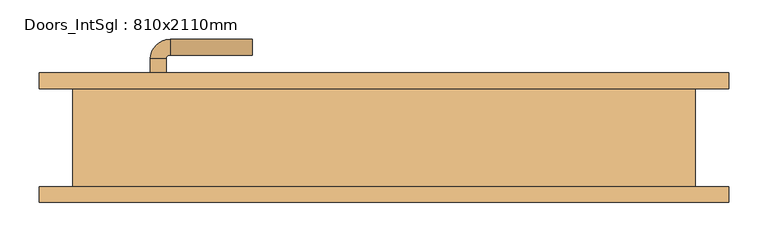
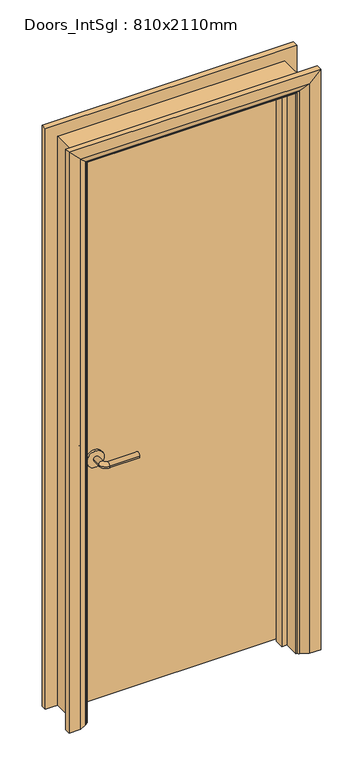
"""IFC4 building model written with IfcOpenShell, lengths in millimetres: door geometry, Doors_IntSgl : 810x2110mm."""

from ifc_helpers import new_model, si_unit, point, frame, frame_2d, origin, place, context, project, spatial, polyline, circle_curve, ellipse_curve, trimmed, segment, composite_curve, outline, extrude, faceted_brep, source, transform, mapped, element, save
from ifc_brep_helpers import plane_surface, cylinder_surface, revolved_surface, advanced_brep


def doors_intsgl_810x2110mm_60c2a13c(model_context):
    return source(origin(), model_context, "Body", "SolidModel", [
        advanced_brep(
        [(-298.0, 16.5, 900.0), (-278.0, 16.5, 900.0), (-278.0, -13.5, 900.0), (-298.0, -13.5, 900.0), (-273.0, -18.5, 900.0), (-273.0, -38.5, 900.0), (-168.0, -38.5, 900.0), (-168.0, -18.5, 900.0)],
        [
            (0, 1, circle_curve(frame((-288.0, 16.5, 900.0), z_axis=(0.0, 1.0, 0.0), x_axis=(1.0, 0.0, 0.0)), 10.0)),
            (1, 0, circle_curve(frame((-288.0, 16.5, 900.0), z_axis=(0.0, 1.0, 0.0), x_axis=(1.0, 0.0, 0.0)), 10.0)),
            (1, 2),
            (2, 3, circle_curve(frame((-288.0, -13.5, 900.0), z_axis=(0.0, 1.0, 0.0), x_axis=(1.0, 0.0, 0.0)), 10.0)),
            (3, 0),
            (3, 2, circle_curve(frame((-288.0, -13.5, 900.0), z_axis=(0.0, 1.0, 0.0), x_axis=(1.0, 0.0, 0.0)), 10.0)),
            (4, 5, circle_curve(frame((-273.0, -28.5, 900.0), z_axis=(-1.0, 0.0, 0.0), x_axis=(0.0, 1.0, 0.0)), 10.0)),
            (5, 3, circle_curve(frame((-273.0, -13.5, 900.0), z_axis=(0.0, 0.0, -1.0), x_axis=(-1.0, 0.0, 0.0)), 25.0)),
            (2, 4, circle_curve(frame((-273.0, -13.5, 900.0), z_axis=(0.0, 0.0, 1.0), x_axis=(-1.0, 0.0, 0.0)), 5.0)),
            (5, 4, circle_curve(frame((-273.0, -28.5, 900.0), z_axis=(-1.0, 0.0, 0.0), x_axis=(0.0, 1.0, 0.0)), 10.0)),
            (6, 7, circle_curve(frame((-168.0, -28.5, 900.0), z_axis=(1.0, 0.0, 0.0), x_axis=(0.0, 1.0, 0.0)), 10.0)),
            (7, 6, circle_curve(frame((-168.0, -28.5, 900.0), z_axis=(1.0, 0.0, 0.0), x_axis=(0.0, 1.0, 0.0)), 10.0)),
            (4, 7),
            (6, 5),
        ],
        [
            plane_surface(frame((-288.0, 16.5, 900.0), z_axis=(0.0, 1.0, 0.0), x_axis=(0.0, 0.0, 1.0))),
            cylinder_surface(frame((-288.0, 16.5, 900.0), z_axis=(0.0, 1.0, 0.0), x_axis=(1.0, 0.0, 0.0)), 10.0),
            revolved_surface(trimmed(ellipse_curve(frame((-288.0, -13.5, 900.0), z_axis=(0.0, -1.0, 0.0), x_axis=(1.0, 0.0, 0.0)), 10.0, 10.0), [point((-298.0, -13.5, 900.0))], [point((-278.0, -13.5, 900.0))], True, "CARTESIAN"), (-273.0, -13.5, 900.0), (0.0, 0.0, -1.0)),
            revolved_surface(trimmed(ellipse_curve(frame((-288.0, -13.5, 900.0), z_axis=(0.0, -1.0, 0.0), x_axis=(1.0, 0.0, 0.0)), 10.0, 10.0), [point((-278.0, -13.5, 900.0))], [point((-298.0, -13.5, 900.0))], True, "CARTESIAN"), (-273.0, -13.5, 900.0), (0.0, 0.0, -1.0)),
            plane_surface(frame((-168.0, -28.5, 900.0), z_axis=(1.0, 0.0, 0.0), x_axis=(0.0, 0.0, 1.0))),
            cylinder_surface(frame((-273.0, -28.5, 900.0), z_axis=(-1.0, 0.0, 0.0), x_axis=(0.0, 1.0, 0.0)), 10.0),
        ],
        [
            (0, [[1, 2]]),
            (1, [[3, 4, 5, -2]]),
            (1, [[-5, 6, -3, -1]]),
            (2, [[7, 8, -4, 9]]),
            (3, [[10, -9, -6, -8]]),
            (4, [[11, 12]]),
            (5, [[13, -11, 14, -7]]),
            (5, [[-14, -12, -13, -10]]),
        ],
    ),
        extrude(outline(composite_curve([segment(trimmed(circle_curve(frame_2d((900.0, -290.5)), 30.0), [point((900.0, -320.5))], [point((900.0, -260.5))], False, "CARTESIAN"), True, "CONTINUOUS"), segment(trimmed(circle_curve(frame_2d((900.0, -290.5)), 30.0), [point((900.0, -260.5))], [point((900.0, -320.5))], False, "CARTESIAN"), True, "CONTINUOUS")], self_intersect=False)), frame((0.0, 16.5, 0.0), z_axis=(0.0, 1.0, 0.0), x_axis=(0.0, 0.0, 1.0)), (0.0, 0.0, 1.0), 8.0),
        advanced_brep(
        [(-298.0, 70.5, 900.0), (-278.0, 70.5, 900.0), (-298.0, 100.5, 900.0), (-278.0, 100.5, 900.0), (-273.0, 105.5, 900.0), (-273.0, 125.5, 900.0), (-168.0, 125.5, 900.0), (-168.0, 105.5, 900.0)],
        [
            (0, 1, circle_curve(frame((-288.0, 70.5, 900.0), z_axis=(0.0, -1.0, 0.0), x_axis=(1.0, 0.0, 0.0)), 10.0)),
            (1, 0, circle_curve(frame((-288.0, 70.5, 900.0), z_axis=(0.0, -1.0, 0.0), x_axis=(1.0, 0.0, 0.0)), 10.0)),
            (0, 2),
            (2, 3, circle_curve(frame((-288.0, 100.5, 900.0), z_axis=(0.0, -1.0, 0.0), x_axis=(1.0, 0.0, 0.0)), 10.0)),
            (3, 1),
            (3, 2, circle_curve(frame((-288.0, 100.5, 900.0), z_axis=(0.0, -1.0, 0.0), x_axis=(1.0, 0.0, 0.0)), 10.0)),
            (4, 3, circle_curve(frame((-273.0, 100.5, 900.0), z_axis=(0.0, 0.0, 1.0), x_axis=(-1.0, 0.0, 0.0)), 5.0)),
            (2, 5, circle_curve(frame((-273.0, 100.5, 900.0), z_axis=(0.0, 0.0, -1.0), x_axis=(-1.0, 0.0, 0.0)), 25.0)),
            (5, 4, circle_curve(frame((-273.0, 115.5, 900.0), z_axis=(-1.0, 0.0, 0.0), x_axis=(0.0, -1.0, 0.0)), 10.0)),
            (4, 5, circle_curve(frame((-273.0, 115.5, 900.0), z_axis=(-1.0, 0.0, 0.0), x_axis=(0.0, -1.0, 0.0)), 10.0)),
            (6, 7, circle_curve(frame((-168.0, 115.5, 900.0), z_axis=(1.0, 0.0, 0.0), x_axis=(0.0, -1.0, 0.0)), 10.0)),
            (7, 6, circle_curve(frame((-168.0, 115.5, 900.0), z_axis=(1.0, 0.0, 0.0), x_axis=(0.0, -1.0, 0.0)), 10.0)),
            (5, 6),
            (7, 4),
        ],
        [
            plane_surface(frame((-288.0, 70.5, 900.0), z_axis=(0.0, -1.0, 0.0), x_axis=(0.0, 0.0, 1.0))),
            cylinder_surface(frame((-288.0, 70.5, 900.0), z_axis=(0.0, -1.0, 0.0), x_axis=(1.0, 0.0, 0.0)), 10.0),
            revolved_surface(trimmed(ellipse_curve(frame((-288.0, 100.5, 900.0), z_axis=(0.0, -1.0, 0.0), x_axis=(1.0, 0.0, 0.0)), 10.0, 10.0), [point((-298.0, 100.5, 900.0))], [point((-278.0, 100.5, 900.0))], True, "CARTESIAN"), (-273.0, 100.5, 900.0), (0.0, 0.0, -1.0)),
            revolved_surface(trimmed(ellipse_curve(frame((-288.0, 100.5, 900.0), z_axis=(0.0, -1.0, 0.0), x_axis=(1.0, 0.0, 0.0)), 10.0, 10.0), [point((-278.0, 100.5, 900.0))], [point((-298.0, 100.5, 900.0))], True, "CARTESIAN"), (-273.0, 100.5, 900.0), (0.0, 0.0, -1.0)),
            plane_surface(frame((-168.0, 115.5, 900.0), z_axis=(1.0, 0.0, 0.0), x_axis=(0.0, 0.0, 1.0))),
            cylinder_surface(frame((-273.0, 115.5, 900.0), z_axis=(-1.0, 0.0, 0.0), x_axis=(0.0, -1.0, 0.0)), 10.0),
        ],
        [
            (0, [[1, 2]]),
            (1, [[-1, 3, 4, 5]]),
            (1, [[-2, -5, 6, -3]]),
            (2, [[7, -4, 8, 9]]),
            (3, [[-8, -6, -7, 10]]),
            (4, [[11, 12]]),
            (5, [[-9, 13, -12, 14]]),
            (5, [[-10, -14, -11, -13]]),
        ],
    ),
        extrude(outline(composite_curve([segment(trimmed(circle_curve(frame_2d((900.0, -290.5)), 30.0), [point((900.0, -320.5))], [point((900.0, -260.5))], False, "CARTESIAN"), True, "CONTINUOUS"), segment(trimmed(circle_curve(frame_2d((900.0, -290.5)), 30.0), [point((900.0, -260.5))], [point((900.0, -320.5))], False, "CARTESIAN"), True, "CONTINUOUS")], self_intersect=False)), frame((0.0, 62.5, 0.0), z_axis=(0.0, 1.0, 0.0), x_axis=(0.0, 0.0, 1.0)), (0.0, 0.0, 1.0), 8.0),
        extrude(outline(polyline([(363.0, 24.5), (-363.0, 24.5), (-363.0, 62.5), (363.0, 62.5), (363.0, 24.5)])), frame((0.0, 0.0, 8.0), z_axis=(0.0, 0.0, 1.0), x_axis=(1.0, 0.0, 0.0)), (0.0, 0.0, 1.0), 2060.0),
        advanced_brep(
        [(440.0, 82.5, 0.0), (440.0, 62.5, 0.0), (370.0, 62.5, 0.0), (374.0, 68.5, 0.0), (400.0, 82.5, 0.0), (440.0, 82.5, 2145.0), (440.0, 62.5, 2145.0), (-440.0, 62.5, 2145.0), (-440.0, 62.5, 0.0), (-370.0, 62.5, 0.0), (-370.0, 62.5, 2075.0), (370.0, 62.5, 2075.0), (374.0, 68.5, 2079.0), (400.0, 82.5, 2105.0), (-400.0, 82.5, 2105.0), (-400.0, 82.5, 0.0), (-440.0, 82.5, 0.0), (-440.0, 82.5, 2145.0), (-374.0, 68.5, 2079.0), (-374.0, 68.5, 0.0)],
        [
            (0, 1),
            (1, 2),
            (2, 3, circle_curve(frame((378.0, 61.5, 0.0), z_axis=(0.0, 0.0, -1.0), x_axis=(1.0, 0.0, 0.0)), 8.0622577)),
            (3, 4),
            (4, 0),
            (0, 5),
            (5, 6),
            (6, 1),
            (6, 7),
            (7, 8),
            (8, 9),
            (9, 10),
            (10, 11),
            (11, 2),
            (11, 12, ellipse_curve(frame((378.0, 61.5, 2083.0), z_axis=(0.7071067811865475, 0.0, -0.7071067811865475), x_axis=(-0.7071067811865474, 0.0, -0.7071067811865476)), 11.4017543, 8.0622577)),
            (12, 3),
            (12, 13),
            (13, 4),
            (13, 14),
            (14, 15),
            (15, 16),
            (16, 17),
            (17, 5),
            (17, 7),
            (10, 18, ellipse_curve(frame((-378.0, 61.5, 2083.0), z_axis=(0.7071067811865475, 0.0, 0.7071067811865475), x_axis=(0.7071067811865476, 0.0, -0.7071067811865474)), 11.4017543, 8.0622577)),
            (18, 12),
            (18, 14),
            (15, 19),
            (19, 9, circle_curve(frame((-378.0, 61.5, 0.0), z_axis=(0.0, 0.0, -1.0), x_axis=(-1.0, 0.0, 0.0)), 8.0622577)),
            (8, 16),
            (19, 18),
        ],
        [
            plane_surface(frame((370.0, 62.5, 0.0), z_axis=(0.0, 0.0, -1.0), x_axis=(0.0, -1.0, 0.0))),
            plane_surface(frame((440.0, 82.5, 0.0), z_axis=(1.0, 0.0, 0.0), x_axis=(0.0, 0.0, 1.0))),
            plane_surface(frame((440.0, 62.5, 0.0), z_axis=(0.0, -1.0, 0.0), x_axis=(0.0, 0.0, 1.0))),
            cylinder_surface(frame((378.0, 61.5, 0.0), z_axis=(0.0, 0.0, -1.0), x_axis=(1.0, 0.0, 0.0)), 8.0622577),
            plane_surface(frame((374.0, 68.5, 0.0), z_axis=(-0.4740998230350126, 0.880471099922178, 0.0), x_axis=(0.0, 0.0, 1.0))),
            plane_surface(frame((400.0, 82.5, 0.0), z_axis=(0.0, 1.0, 0.0), x_axis=(0.0, 0.0, 1.0))),
            plane_surface(frame((440.0, 82.5, 2145.0), z_axis=(0.0, 0.0, 1.0), x_axis=(-1.0, 0.0, 0.0))),
            cylinder_surface(frame((370.0, 61.5, 2083.0), z_axis=(1.0, 0.0, 0.0), x_axis=(0.0, 0.0, 1.0)), 8.0622577),
            plane_surface(frame((374.0, 68.5, 2079.0), z_axis=(0.0, 0.8804710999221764, -0.4740998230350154), x_axis=(-1.0, 0.0, 0.0))),
            plane_surface(frame((-370.0, 62.5, 0.0), z_axis=(0.0, 0.0, -1.0), x_axis=(0.0, -1.0, 0.0))),
            plane_surface(frame((-440.0, 82.5, 2145.0), z_axis=(-1.0, 0.0, 0.0), x_axis=(0.0, 0.0, -1.0))),
            cylinder_surface(frame((-378.0, 61.5, 2075.0), z_axis=(0.0, 0.0, 1.0), x_axis=(-1.0, 0.0, 0.0)), 8.0622577),
            plane_surface(frame((-374.0, 68.5, 2079.0), z_axis=(0.47409982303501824, 0.8804710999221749, 0.0), x_axis=(0.0, 0.0, -1.0))),
        ],
        [
            (0, [[1, 2, 3, 4, 5]]),
            (1, [[-1, 6, 7, 8]]),
            (2, [[-2, -8, 9, 10, 11, 12, 13, 14]]),
            (3, [[-3, -14, 15, 16]]),
            (4, [[-4, -16, 17, 18]]),
            (5, [[-5, -18, 19, 20, 21, 22, 23, -6]]),
            (6, [[-7, -23, 24, -9]]),
            (7, [[-15, -13, 25, 26]]),
            (8, [[-17, -26, 27, -19]]),
            (9, [[-21, 28, 29, -11, 30]]),
            (10, [[-24, -22, -30, -10]]),
            (11, [[-25, -12, -29, 31]]),
            (12, [[-27, -31, -28, -20]]),
        ],
    ),
        extrude(outline(polyline([(0.0, -365.0), (0.0, -346.0), (2051.0, -346.0), (2051.0, 346.0), (0.0, 346.0), (0.0, 365.0), (2070.0, 365.0), (2070.0, -365.0), (0.0, -365.0)])), frame((0.0, -9.5, 0.0), z_axis=(0.0, 1.0, 0.0), x_axis=(0.0, 0.0, 1.0)), (0.0, 0.0, 1.0), 32.0),
        advanced_brep(
        [(-440.0, -82.5, 0.0), (-440.0, -62.5, 0.0), (-370.0, -62.5, 0.0), (-374.0, -68.5, 0.0), (-400.0, -82.5, 0.0), (-440.0, -82.5, 2145.0), (-440.0, -62.5, 2145.0), (-370.0, -62.5, 2075.0), (-374.0, -68.5, 2079.0), (-400.0, -82.5, 2105.0), (440.0, -82.5, 2145.0), (440.0, -62.5, 2145.0), (370.0, -62.5, 2075.0), (374.0, -68.5, 2079.0), (400.0, -82.5, 2105.0), (440.0, -82.5, 0.0), (400.0, -82.5, 0.0), (374.0, -68.5, 0.0), (370.0, -62.5, 0.0), (440.0, -62.5, 0.0)],
        [
            (0, 1),
            (1, 2),
            (2, 3, circle_curve(frame((-378.0, -61.5, 0.0), z_axis=(0.0, 0.0, -1.0), x_axis=(-1.0, 0.0, 0.0)), 8.0622577)),
            (3, 4),
            (4, 0),
            (0, 5),
            (5, 6),
            (6, 1),
            (6, 7),
            (7, 2),
            (7, 8, ellipse_curve(frame((-378.0, -61.5, 2083.0), z_axis=(-0.7071067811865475, 0.0, -0.7071067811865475), x_axis=(0.7071067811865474, 0.0, -0.7071067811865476)), 11.4017543, 8.0622577)),
            (8, 3),
            (8, 9),
            (9, 4),
            (9, 5),
            (5, 10),
            (10, 11),
            (11, 6),
            (11, 12),
            (12, 7),
            (12, 13, ellipse_curve(frame((378.0, -61.5, 2083.0), z_axis=(-0.7071067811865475, 0.0, 0.7071067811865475), x_axis=(-0.7071067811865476, 0.0, -0.7071067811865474)), 11.4017543, 8.0622577)),
            (13, 8),
            (13, 14),
            (14, 9),
            (14, 10),
            (15, 16),
            (16, 17),
            (17, 18, circle_curve(frame((378.0, -61.5, 0.0), z_axis=(0.0, 0.0, -1.0), x_axis=(1.0, 0.0, 0.0)), 8.0622577)),
            (18, 19),
            (19, 15),
            (10, 15),
            (19, 11),
            (18, 12),
            (17, 13),
            (16, 14),
        ],
        [
            plane_surface(frame((-370.0, -135.3010989, 0.0), z_axis=(0.0, 0.0, -1.0), x_axis=(1.0, 0.0, 0.0))),
            plane_surface(frame((-440.0, -82.5, 0.0), z_axis=(-1.0, 0.0, 0.0), x_axis=(0.0, 0.0, 1.0))),
            plane_surface(frame((-440.0, -62.5, 0.0), z_axis=(0.0, 1.0, 0.0), x_axis=(0.0, 0.0, 1.0))),
            cylinder_surface(frame((-378.0, -61.5, 0.0), z_axis=(0.0, 0.0, -1.0), x_axis=(-1.0, 0.0, 0.0)), 8.0622577),
            plane_surface(frame((-374.0, -68.5, 0.0), z_axis=(0.4740998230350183, -0.8804710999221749, 0.0), x_axis=(0.0, 0.0, 1.0))),
            plane_surface(frame((-400.0, -82.5, 0.0), z_axis=(0.0, -1.0, 0.0), x_axis=(0.0, 0.0, 1.0))),
            plane_surface(frame((-440.0, -82.5, 2145.0), z_axis=(0.0, 0.0, 1.0), x_axis=(1.0, 0.0, 0.0))),
            plane_surface(frame((-440.0, -62.5, 2145.0), z_axis=(0.0, 1.0, 0.0), x_axis=(1.0, 0.0, 0.0))),
            cylinder_surface(frame((-370.0, -61.5, 2083.0), z_axis=(-1.0, 0.0, 0.0), x_axis=(0.0, 0.0, 1.0)), 8.0622577),
            plane_surface(frame((-374.0, -68.5, 2079.0), z_axis=(0.0, -0.8804710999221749, -0.4740998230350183), x_axis=(1.0, 0.0, 0.0))),
            plane_surface(frame((-400.0, -82.5, 2105.0), z_axis=(0.0, -1.0, 0.0), x_axis=(1.0, 0.0, 0.0))),
            plane_surface(frame((370.0, -135.3010989, 0.0), z_axis=(0.0, 0.0, -1.0), x_axis=(-1.0, 0.0, 0.0))),
            plane_surface(frame((440.0, -82.5, 2145.0), z_axis=(1.0, 0.0, 0.0), x_axis=(0.0, 0.0, -1.0))),
            plane_surface(frame((440.0, -62.5, 2145.0), z_axis=(0.0, 1.0, 0.0), x_axis=(0.0, 0.0, -1.0))),
            cylinder_surface(frame((378.0, -61.5, 2075.0), z_axis=(0.0, 0.0, 1.0), x_axis=(1.0, 0.0, 0.0)), 8.0622577),
            plane_surface(frame((374.0, -68.5, 2079.0), z_axis=(-0.4740998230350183, -0.8804710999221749, 0.0), x_axis=(0.0, 0.0, -1.0))),
            plane_surface(frame((400.0, -82.5, 2105.0), z_axis=(0.0, -1.0, 0.0), x_axis=(0.0, 0.0, -1.0))),
        ],
        [
            (0, [[1, 2, 3, 4, 5]]),
            (1, [[-1, 6, 7, 8]]),
            (2, [[-2, -8, 9, 10]]),
            (3, [[-3, -10, 11, 12]]),
            (4, [[-4, -12, 13, 14]]),
            (5, [[-5, -14, 15, -6]]),
            (6, [[-7, 16, 17, 18]]),
            (7, [[-9, -18, 19, 20]]),
            (8, [[-11, -20, 21, 22]]),
            (9, [[-13, -22, 23, 24]]),
            (10, [[-15, -24, 25, -16]]),
            (11, [[26, 27, 28, 29, 30]]),
            (12, [[-17, 31, -30, 32]]),
            (13, [[-19, -32, -29, 33]]),
            (14, [[-21, -33, -28, 34]]),
            (15, [[-23, -34, -27, 35]]),
            (16, [[-25, -35, -26, -31]]),
        ],
    ),
        faceted_brep([(-365.0, 62.5, 0.0), (-365.0, -62.5, 0.0), (-397.0, -62.5, 0.0), (-397.0, 62.5, 0.0), (-365.0, 62.5, 2070.0), (-365.0, -62.5, 2070.0), (-397.0, -62.5, 2102.0), (-397.0, 62.5, 2102.0), (365.0, 62.5, 2070.0), (365.0, -62.5, 2070.0), (397.0, -62.5, 2102.0), (397.0, 62.5, 2102.0), (365.0, 62.5, 0.0), (397.0, 62.5, 0.0), (397.0, -62.5, 0.0), (365.0, -62.5, 0.0)], [[[0, 1, 2, 3]], [[1, 0, 4, 5]], [[2, 1, 5, 6]], [[3, 2, 6, 7]], [[0, 3, 7, 4]], [[5, 4, 8, 9]], [[6, 5, 9, 10]], [[7, 6, 10, 11]], [[4, 7, 11, 8]], [[12, 13, 14, 15]], [[9, 8, 12, 15]], [[10, 9, 15, 14]], [[11, 10, 14, 13]], [[8, 11, 13, 12]]]),
    ])


if __name__ == "__main__":
    model = new_model("IFC4")
    model_context = context("Model", 3, world=origin())
    ifc_project = project(units=[si_unit("LENGTHUNIT", "METRE", prefix="MILLI")], contexts=[model_context])
    site = spatial("IfcSite", under=ifc_project)
    building = spatial("IfcBuilding", under=site)
    placement = place(None, origin())
    doors_intsgl_810x2110mm_shape = doors_intsgl_810x2110mm_60c2a13c(model_context)
    element("IfcDoor", 1, ObjectType="Doors_IntSgl : 810x2110mm", at=placement, inside=building, context=model_context, shape_type="MappedRepresentation", body=[
        mapped(doors_intsgl_810x2110mm_shape, transform((0.0, 0.0, 0.0), x_axis=(1.0, 0.0, 0.0), y_axis=(0.0, 1.0, 0.0), z_axis=(0.0, 0.0, 1.0))),
    ])
    save(model, "model.ifc")
